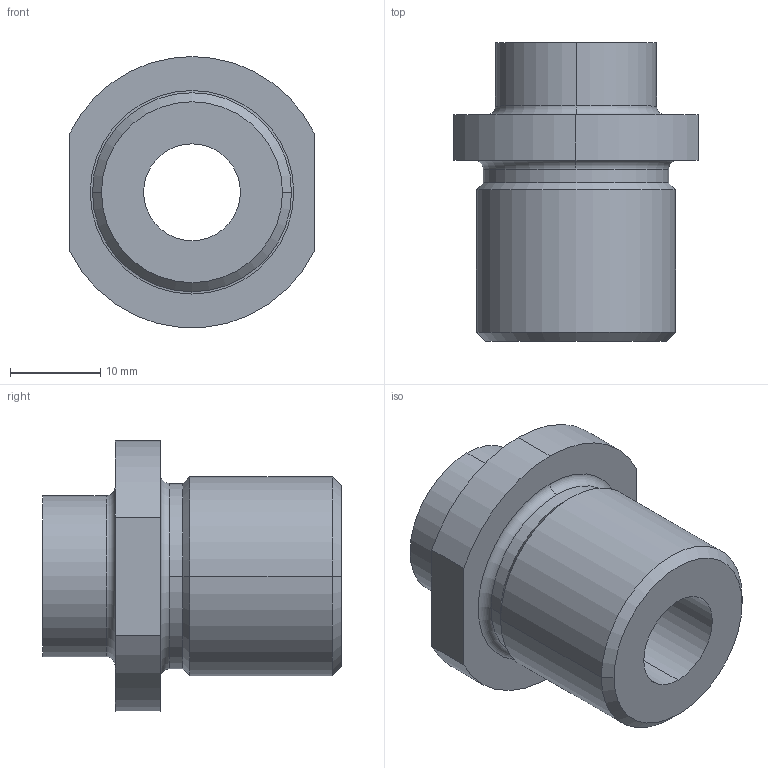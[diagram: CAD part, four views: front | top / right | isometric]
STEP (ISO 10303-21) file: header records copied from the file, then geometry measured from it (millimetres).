
FILE_DESCRIPTION (( 'STEP AP214' ), '1' );
FILE_NAME ('øòóöåð íîâûé.STEP', '2023-02-02T13:19:08', ( '' ), ( '' ), 'SwSTEP 2.0', 'SolidWorks 2020', '' );
FILE_SCHEMA (( 'AUTOMOTIVE_DESIGN' ));
Length unit declared in the file: millimetre
Products named in the file (1): øòóöåð íîâûé
Bounding box: 27 x 33 x 29.94 mm (x, y, z)
Volume: 9447.1 mm3; surface area: 4610.8 mm2
Topology: 1 solids, 1 shells, 28 faces, 61 edges, 38 vertices
Faces by surface type: cylinder 11, plane 7, cone 6, torus 4
Entity records: 861 total; most frequent: DIRECTION 157, CARTESIAN_POINT 128, ORIENTED_EDGE 122, AXIS2_PLACEMENT_3D 67, EDGE_CURVE 61, CIRCLE 38, VERTEX_POINT 38, EDGE_LOOP 33
